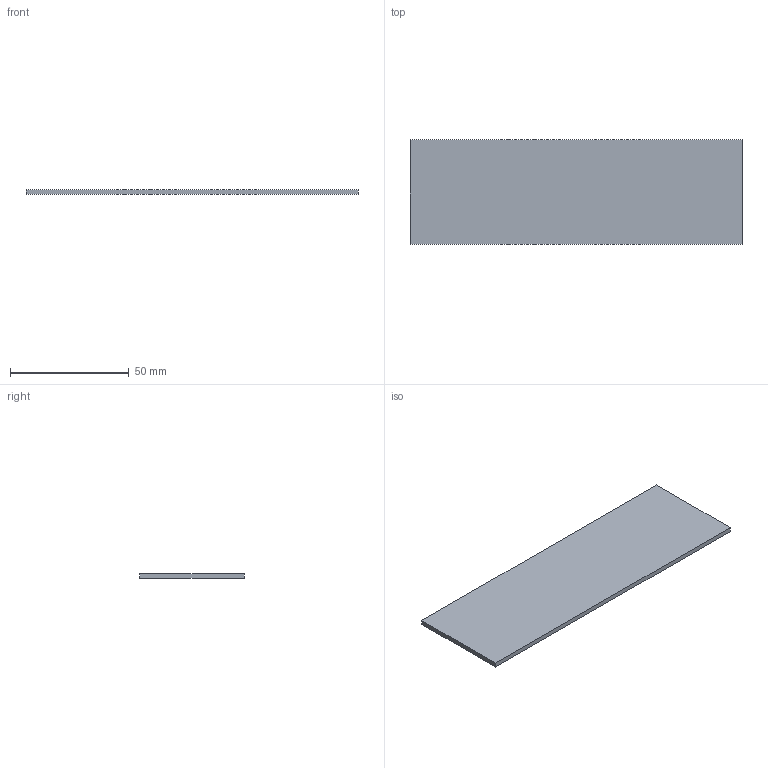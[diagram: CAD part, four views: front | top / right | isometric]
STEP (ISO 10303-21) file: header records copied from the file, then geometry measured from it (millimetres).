
FILE_DESCRIPTION(('FreeCAD Model'),'2;1');
FILE_NAME('Open CASCADE Shape Model','2026-10-23T15:45:23',('FreeCAD'),( 'FreeCAD'),'Open CASCADE STEP processor 7.8','FreeCAD','Unknown');
FILE_SCHEMA(('AUTOMOTIVE_DESIGN { 1 0 10303 214 1 1 1 1 }'));
Length unit declared in the file: millimetre
Products named in the file (1): Open CASCADE STEP translator 7.8 3
Bounding box: 140 x 44 x 2 mm (x, y, z)
Volume: 12320 mm3; surface area: 13056 mm2
Topology: 1 solids, 1 shells, 6 faces, 12 edges, 8 vertices
Faces by surface type: plane 6
Entity records: 166 total; most frequent: CARTESIAN_POINT 27, DIRECTION 26, ORIENTED_EDGE 24, EDGE_CURVE 12, LINE 12, VECTOR 12, VERTEX_POINT 8, AXIS2_PLACEMENT_3D 7
